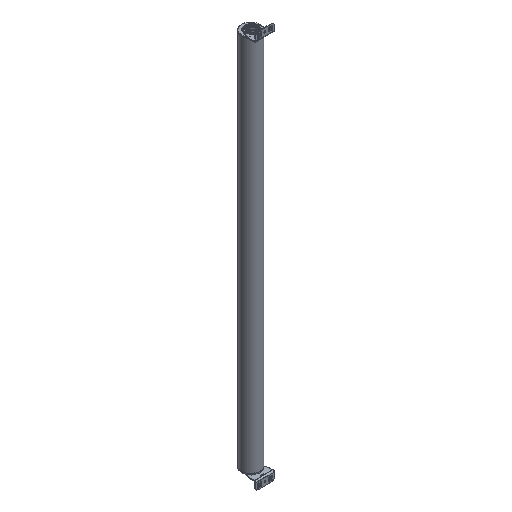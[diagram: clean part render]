
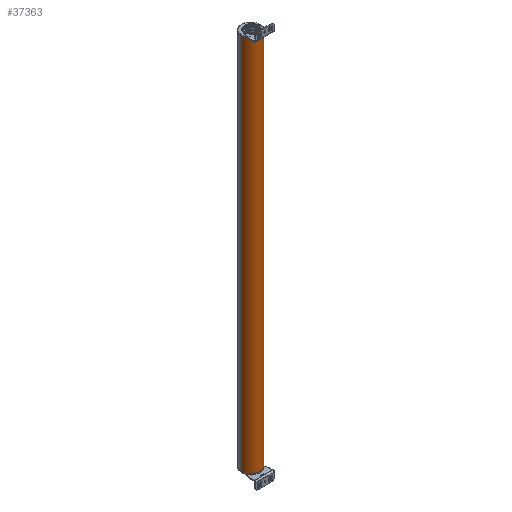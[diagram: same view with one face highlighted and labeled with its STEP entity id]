
A CAD part, isometric view. The second image highlights one B-rep face of the part: STEP entity #37363.
In plain terms, the highlighted cylindrical face has radius 35 mm (diameter 70 mm), a partial arc.
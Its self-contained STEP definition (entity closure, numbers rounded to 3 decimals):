
#37192=CARTESIAN_POINT('',(0.,0.,0.));
#37193=DIRECTION('',(0.,0.,1.));
#37194=DIRECTION('',(-1.,0.,0.));
#37195=AXIS2_PLACEMENT_3D('',#37192,#37193,#37194);
#37238=CARTESIAN_POINT('',(0.,0.,-1418.5));
#37239=DIRECTION('',(0.,0.,1.));
#37240=DIRECTION('',(-1.,0.,0.));
#37241=AXIS2_PLACEMENT_3D('',#37238,#37239,#37240);
#37246=DIRECTION('',(0.,0.,-1.));
#37247=VECTOR('',#37246,1418.5);
#37248=CARTESIAN_POINT('',(35.,0.,0.));
#37249=LINE('',#37248,#37247);
#37253=DIRECTION('',(0.,0.,-1.));
#37254=VECTOR('',#37253,1418.5);
#37255=CARTESIAN_POINT('',(-35.,0.,0.));
#37256=LINE('',#37255,#37254);
#37264=CARTESIAN_POINT('',(35.,0.,0.));
#37265=CARTESIAN_POINT('',(-35.,0.,0.));
#37266=VERTEX_POINT('',#37264);
#37267=VERTEX_POINT('',#37265);
#37272=CARTESIAN_POINT('',(35.,0.,-1418.5));
#37273=CARTESIAN_POINT('',(-35.,0.,-1418.5));
#37274=VERTEX_POINT('',#37272);
#37275=VERTEX_POINT('',#37273);
#37352=CARTESIAN_POINT('',(0.,0.,0.));
#37353=DIRECTION('',(0.,0.,1.));
#37354=DIRECTION('',(1.,0.,0.));
#37355=AXIS2_PLACEMENT_3D('',#37352,#37353,#37354);
#37356=CYLINDRICAL_SURFACE('',#37355,35.);
#37357=ORIENTED_EDGE('',*,*,#37283,.T.);
#37358=ORIENTED_EDGE('',*,*,#37347,.T.);
#37359=ORIENTED_EDGE('',*,*,#37329,.F.);
#37360=ORIENTED_EDGE('',*,*,#37344,.F.);
#37361=EDGE_LOOP('',(#37357,#37358,#37359,#37360));
#37362=FACE_OUTER_BOUND('',#37361,.F.);
#37196=CIRCLE('',#37195,35.);
#37242=CIRCLE('',#37241,35.);
#37283=EDGE_CURVE('',#37267,#37266,#37196,.T.);
#37329=EDGE_CURVE('',#37275,#37274,#37242,.T.);
#37344=EDGE_CURVE('',#37267,#37275,#37256,.T.);
#37347=EDGE_CURVE('',#37266,#37274,#37249,.T.);
#37363=ADVANCED_FACE('',(#37362),#37356,.T.);
